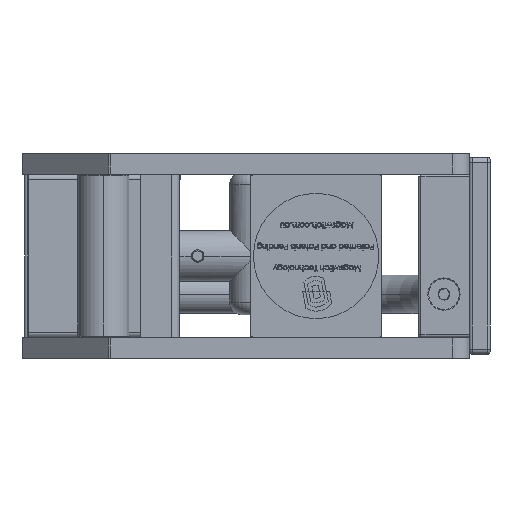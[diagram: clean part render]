
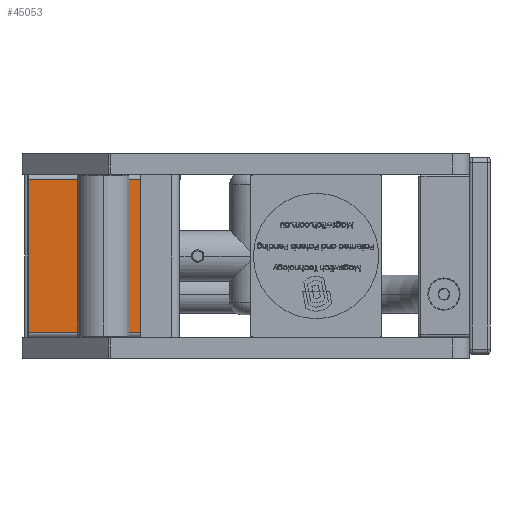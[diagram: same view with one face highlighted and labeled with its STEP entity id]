
A CAD part, front view. The second image highlights one B-rep face of the part: STEP entity #45053.
In plain terms, the highlighted planar face has unit normal (0, -1, 0).
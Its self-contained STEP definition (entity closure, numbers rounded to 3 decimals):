
#359 = CARTESIAN_POINT ( 'NONE',  ( -22.5, 114.25, -62. ) ) ;
#3340 = CARTESIAN_POINT ( 'NONE',  ( 46.5, 114.25, -62. ) ) ;
#3418 = LINE ( 'NONE', #359, #9198 ) ;
#6127 = FACE_OUTER_BOUND ( 'NONE', #25525, .T. ) ;
#6243 = VECTOR ( 'NONE', #33348, 1000. ) ;
#6455 = PLANE ( 'NONE',  #58932 ) ;
#6865 = DIRECTION ( 'NONE',  ( 0., 1., 0. ) ) ;
#7288 = LINE ( 'NONE', #56186, #31875 ) ;
#9198 = VECTOR ( 'NONE', #55135, 1000. ) ;
#11089 = CARTESIAN_POINT ( 'NONE',  ( -22.5, 114.25, -32. ) ) ;
#12145 = ORIENTED_EDGE ( 'NONE', *, *, #25928, .F. ) ;
#16761 = CARTESIAN_POINT ( 'NONE',  ( 46.5, 114.25, -64. ) ) ;
#19926 = DIRECTION ( 'NONE',  ( 0., 0., -1. ) ) ;
#24859 = ORIENTED_EDGE ( 'NONE', *, *, #50933, .T. ) ;
#25525 = EDGE_LOOP ( 'NONE', ( #30743, #24859, #54299, #12145 ) ) ;
#25904 = VERTEX_POINT ( 'NONE', #26234 ) ;
#25928 = EDGE_CURVE ( 'NONE', #55922, #35032, #27242, .T. ) ;
#26234 = CARTESIAN_POINT ( 'NONE',  ( 2.5, 114.25, -62. ) ) ;
#27242 = LINE ( 'NONE', #16761, #58395 ) ;
#28669 = CARTESIAN_POINT ( 'NONE',  ( -22.5, 114.25, -2. ) ) ;
#30170 = CARTESIAN_POINT ( 'NONE',  ( 46.5, 114.25, -2. ) ) ;
#30743 = ORIENTED_EDGE ( 'NONE', *, *, #43858, .T. ) ;
#31875 = VECTOR ( 'NONE', #19926, 1000. ) ;
#33348 = DIRECTION ( 'NONE',  ( -1., 0., 0. ) ) ;
#35032 = VERTEX_POINT ( 'NONE', #3340 ) ;
#41679 = LINE ( 'NONE', #28669, #6243 ) ;
#42847 = DIRECTION ( 'NONE',  ( 0., 0., 1. ) ) ;
#43213 = EDGE_CURVE ( 'NONE', #25904, #35032, #3418, .T. ) ;
#43858 = EDGE_CURVE ( 'NONE', #55922, #49511, #41679, .T. ) ;
#43894 = CARTESIAN_POINT ( 'NONE',  ( 2.5, 114.25, -2. ) ) ;
#45053 = ADVANCED_FACE ( 'NONE', ( #6127 ), #6455, .F. ) ;
#48695 = DIRECTION ( 'NONE',  ( 0., 0., -1. ) ) ;
#49511 = VERTEX_POINT ( 'NONE', #43894 ) ;
#50933 = EDGE_CURVE ( 'NONE', #49511, #25904, #7288, .T. ) ;
#54299 = ORIENTED_EDGE ( 'NONE', *, *, #43213, .T. ) ;
#55135 = DIRECTION ( 'NONE',  ( 1., 0., 0. ) ) ;
#55922 = VERTEX_POINT ( 'NONE', #30170 ) ;
#56186 = CARTESIAN_POINT ( 'NONE',  ( 2.5, 114.25, -74.602 ) ) ;
#58395 = VECTOR ( 'NONE', #48695, 1000. ) ;
#58932 = AXIS2_PLACEMENT_3D ( 'NONE', #11089, #6865, #42847 ) ;
